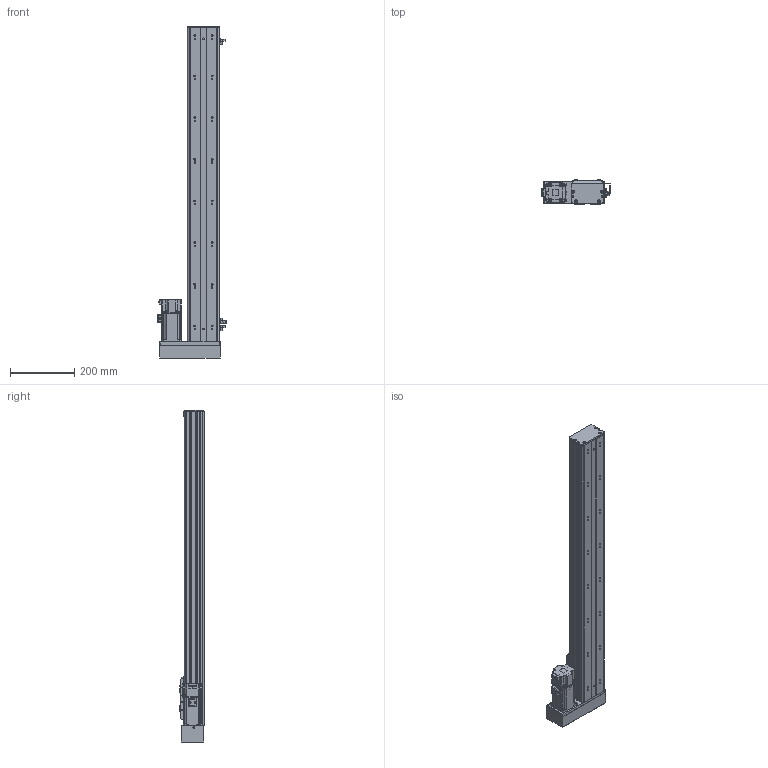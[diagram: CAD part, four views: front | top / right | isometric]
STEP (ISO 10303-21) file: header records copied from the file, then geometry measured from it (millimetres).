
FILE_DESCRIPTION (( 'STEP AP203' ), '1' );
FILE_NAME ('BOSW100-850-1610-1P-RM-M400W-O-S3（方程式2016）.step', '2020-10-10T07:21:17', ( '' ), ( '' ), 'SwSTEP 2.0', 'SolidWorks 2016', '' );
FILE_SCHEMA (( 'CONFIG_CONTROL_DESIGN' ));
Length unit declared in the file: millimetre
Products named in the file (14): BOSW-100-綴裔啣; 放大器内置U型微型光电传感器PM-L65; BOSW&TW-100-俋离覜茼え; BOSW&TW-100-1P-賑雄釱欶; BOSW&TW-100-詩湍揤沭(陔賦凳); 俋境嫖覜嘐隅啣; BOSW-100-1P-DM-800諦誧芞; AIMS(W)-100-LM&RM-肮祭謫欶; BOSW-100-1P-DM-宽轨-钢带-800客户图纸; boS-100-LM&RM-三菱M400W马达板-宽轨; S400W(SMA-L040); BOSW100-850-1610-1P-RM-M400W-O-S3（方程式2016）; 新结构AIMSW-100-1P-宽&高轨共用-滑动座上组件; BOSW-100-1P-DM-宽轨-侧板-800客户图纸
Assembly tree (19 placements, depth 2):
  BOSW100-850-1610-1P-RM-M400W-O-S3（方程式2016）
    BOSW-100-1P-DM-800諦誧芞
    BOSW-100-綴裔啣
    新结构AIMSW-100-1P-宽&高轨共用-滑动座上组件
    S400W(SMA-L040)
    BOSW&TW-100-詩湍揤沭(陔賦凳)  x2
    BOSW&TW-100-1P-賑雄釱欶
    BOSW-100-1P-DM-宽轨-侧板-800客户图纸  x2
    BOSW-100-1P-DM-宽轨-钢带-800客户图纸
    AIMS(W)-100-LM&RM-肮祭謫欶
    boS-100-LM&RM-三菱M400W马达板-宽轨
    俋境嫖覜嘐隅啣  x3
    放大器内置U型微型光电传感器PM-L65  x3
    BOSW&TW-100-俋离覜茼え
Bounding box: 213.4 x 75 x 1036 mm (x, y, z)
Volume: 2291631.1 mm3; surface area: 1070784.3 mm2
Topology: 19 solids, 20 shells, 2549 faces, 6735 edges, 4299 vertices
Faces by surface type: plane 1245, cylinder 818, bspline 271, cone 167, torus 36, sphere 12
Entity records: 70148 total; most frequent: CARTESIAN_POINT 20968, ORIENTED_EDGE 10010, DIRECTION 9705, EDGE_CURVE 5005, AXIS2_PLACEMENT_3D 3449, VERTEX_POINT 3201, LINE 2807, VECTOR 2807
